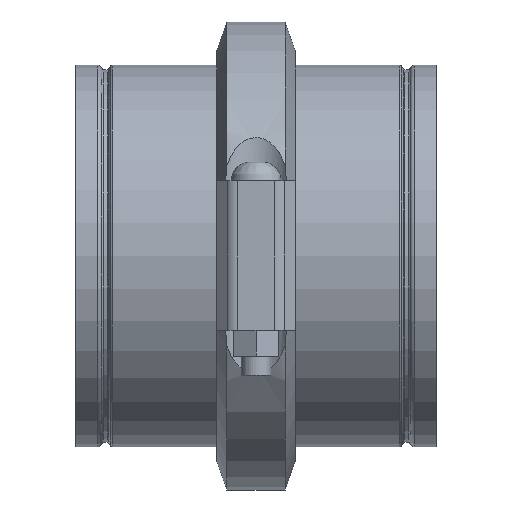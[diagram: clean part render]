
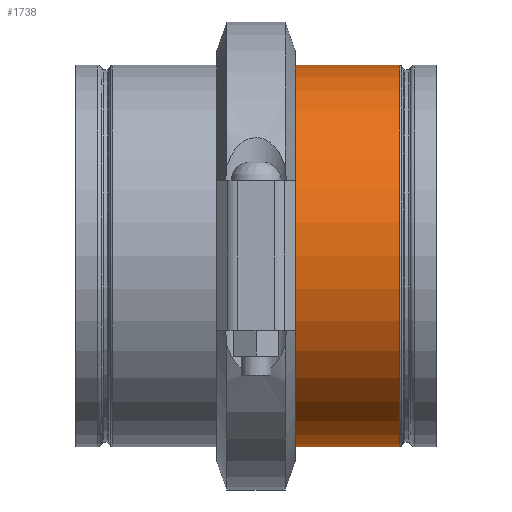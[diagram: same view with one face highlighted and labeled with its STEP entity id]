
A CAD part, top view. The second image highlights one B-rep face of the part: STEP entity #1738.
In plain terms, the highlighted cylindrical face has radius 161.925 mm (diameter 323.85 mm), a full revolution.
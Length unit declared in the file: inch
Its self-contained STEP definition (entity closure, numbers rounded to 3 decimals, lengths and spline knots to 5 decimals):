
#63=LINE('',#2821,#150);
#150=VECTOR('',#2272,6.375);
#237=CYLINDRICAL_SURFACE('',#1953,6.375);
#335=FACE_OUTER_BOUND('',#431,.T.);
#431=EDGE_LOOP('',(#1201,#1202,#1203,#1204,#1205,#1206,#1207,#1208));
#568=CIRCLE('',#1949,6.375);
#569=CIRCLE('',#1950,6.375);
#571=CIRCLE('',#1952,6.375);
#572=CIRCLE('',#1954,6.375);
#573=CIRCLE('',#1955,6.375);
#574=CIRCLE('',#1956,6.375);
#709=VERTEX_POINT('',#2808);
#710=VERTEX_POINT('',#2809);
#711=VERTEX_POINT('',#2811);
#712=VERTEX_POINT('',#2816);
#713=VERTEX_POINT('',#2817);
#714=VERTEX_POINT('',#2819);
#900=EDGE_CURVE('',#709,#710,#568,.T.);
#901=EDGE_CURVE('',#710,#711,#569,.T.);
#903=EDGE_CURVE('',#711,#709,#571,.T.);
#904=EDGE_CURVE('',#712,#713,#572,.T.);
#905=EDGE_CURVE('',#714,#712,#573,.T.);
#906=EDGE_CURVE('',#714,#710,#63,.T.);
#907=EDGE_CURVE('',#713,#714,#574,.T.);
#1201=ORIENTED_EDGE('',*,*,#904,.F.);
#1202=ORIENTED_EDGE('',*,*,#905,.F.);
#1203=ORIENTED_EDGE('',*,*,#906,.T.);
#1204=ORIENTED_EDGE('',*,*,#900,.F.);
#1205=ORIENTED_EDGE('',*,*,#903,.F.);
#1206=ORIENTED_EDGE('',*,*,#901,.F.);
#1207=ORIENTED_EDGE('',*,*,#906,.F.);
#1208=ORIENTED_EDGE('',*,*,#907,.F.);
#1738=ADVANCED_FACE('',(#335),#237,.T.);
#1949=AXIS2_PLACEMENT_3D('',#2810,#2258,#2259);
#1950=AXIS2_PLACEMENT_3D('',#2812,#2260,#2261);
#1952=AXIS2_PLACEMENT_3D('',#2814,#2264,#2265);
#1953=AXIS2_PLACEMENT_3D('',#2815,#2266,#2267);
#1954=AXIS2_PLACEMENT_3D('',#2818,#2268,#2269);
#1955=AXIS2_PLACEMENT_3D('',#2820,#2270,#2271);
#1956=AXIS2_PLACEMENT_3D('',#2822,#2273,#2274);
#2258=DIRECTION('center_axis',(-1.,0.,0.));
#2259=DIRECTION('ref_axis',(0.,-1.,0.));
#2260=DIRECTION('center_axis',(-1.,0.,0.));
#2261=DIRECTION('ref_axis',(0.,-1.,0.));
#2264=DIRECTION('center_axis',(-1.,0.,0.));
#2265=DIRECTION('ref_axis',(0.,-1.,0.));
#2266=DIRECTION('center_axis',(1.,0.,0.));
#2267=DIRECTION('ref_axis',(0.,1.,0.));
#2268=DIRECTION('center_axis',(1.,0.,0.));
#2269=DIRECTION('ref_axis',(0.,-1.,0.));
#2270=DIRECTION('center_axis',(1.,0.,0.));
#2271=DIRECTION('ref_axis',(0.,-1.,0.));
#2272=DIRECTION('',(-1.,0.,0.));
#2273=DIRECTION('center_axis',(1.,0.,0.));
#2274=DIRECTION('ref_axis',(0.,-1.,0.));
#2808=CARTESIAN_POINT('',(1.249,6.375,0.));
#2809=CARTESIAN_POINT('',(1.249,-6.375,0.));
#2810=CARTESIAN_POINT('Origin',(1.249,0.,0.));
#2811=CARTESIAN_POINT('',(1.249,0.,6.375));
#2812=CARTESIAN_POINT('Origin',(1.249,0.,0.));
#2814=CARTESIAN_POINT('Origin',(1.249,0.,0.));
#2815=CARTESIAN_POINT('Origin',(3.01773,0.,0.));
#2816=CARTESIAN_POINT('',(4.78523,6.375,0.));
#2817=CARTESIAN_POINT('',(4.78523,0.,6.375));
#2818=CARTESIAN_POINT('Origin',(4.78523,0.,0.));
#2819=CARTESIAN_POINT('',(4.78523,-6.375,0.));
#2820=CARTESIAN_POINT('Origin',(4.78523,0.,0.));
#2821=CARTESIAN_POINT('',(3.01773,-6.375,0.));
#2822=CARTESIAN_POINT('Origin',(4.78523,0.,0.));
